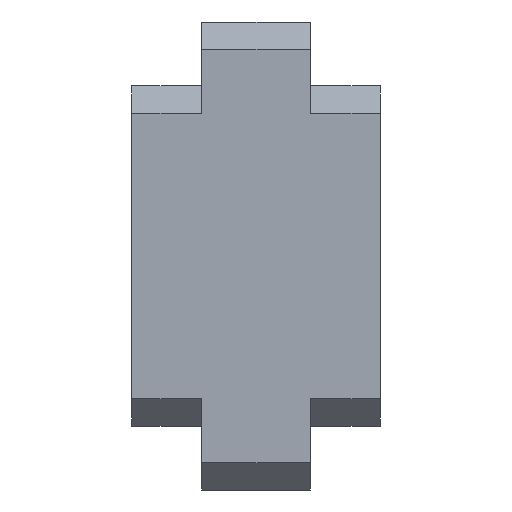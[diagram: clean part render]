
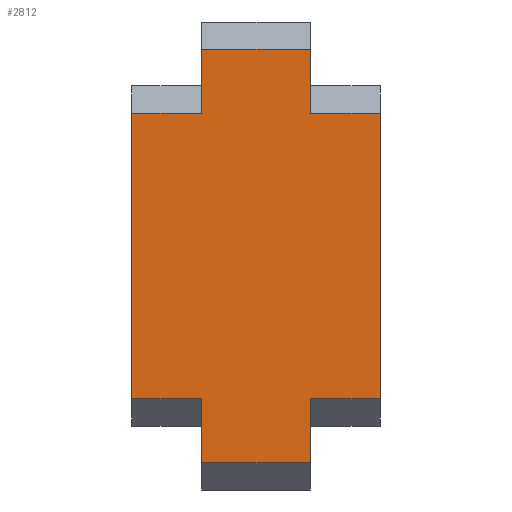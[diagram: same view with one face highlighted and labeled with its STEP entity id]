
A CAD part, left-side view. The second image highlights one B-rep face of the part: STEP entity #2812.
In plain terms, the highlighted planar face has unit normal (-1, 0, 0).
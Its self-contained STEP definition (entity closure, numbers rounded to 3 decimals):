
#7 = LINE ( 'NONE', #2789, #295 ) ;
#19 = VERTEX_POINT ( 'NONE', #947 ) ;
#91 = DIRECTION ( 'NONE',  ( 1., 0., 0. ) ) ;
#146 = VECTOR ( 'NONE', #2623, 1000. ) ;
#295 = VECTOR ( 'NONE', #1646, 1000. ) ;
#301 = EDGE_CURVE ( 'NONE', #2644, #3012, #7, .T. ) ;
#357 = EDGE_CURVE ( 'NONE', #2186, #1170, #490, .T. ) ;
#403 = ORIENTED_EDGE ( 'NONE', *, *, #2489, .T. ) ;
#436 = VECTOR ( 'NONE', #492, 1000. ) ;
#456 = CARTESIAN_POINT ( 'NONE',  ( -31.7, 1., 3.125 ) ) ;
#476 = LINE ( 'NONE', #456, #436 ) ;
#487 = DIRECTION ( 'NONE',  ( 0., -1., 0. ) ) ;
#490 = LINE ( 'NONE', #2310, #1900 ) ;
#492 = DIRECTION ( 'NONE',  ( 0., 0., -1. ) ) ;
#502 = EDGE_CURVE ( 'NONE', #1137, #2415, #476, .T. ) ;
#511 = DIRECTION ( 'NONE',  ( 0., 0., -1. ) ) ;
#548 = DIRECTION ( 'NONE',  ( 0., 0., 1. ) ) ;
#553 = VERTEX_POINT ( 'NONE', #1183 ) ;
#570 = VERTEX_POINT ( 'NONE', #2758 ) ;
#617 = EDGE_CURVE ( 'NONE', #2709, #2907, #795, .T. ) ;
#618 = CARTESIAN_POINT ( 'NONE',  ( -31.7, -1., 2.625 ) ) ;
#782 = DIRECTION ( 'NONE',  ( 0., 1., 0. ) ) ;
#795 = LINE ( 'NONE', #2606, #2629 ) ;
#813 = CARTESIAN_POINT ( 'NONE',  ( -31.7, 2.286, -2.625 ) ) ;
#827 = ORIENTED_EDGE ( 'NONE', *, *, #301, .F. ) ;
#854 = ORIENTED_EDGE ( 'NONE', *, *, #2073, .T. ) ;
#928 = DIRECTION ( 'NONE',  ( 0., -1., 0. ) ) ;
#947 = CARTESIAN_POINT ( 'NONE',  ( -31.7, 1., -2.625 ) ) ;
#996 = LINE ( 'NONE', #1284, #1925 ) ;
#1050 = ORIENTED_EDGE ( 'NONE', *, *, #2775, .T. ) ;
#1080 = CARTESIAN_POINT ( 'NONE',  ( -31.7, 2.286, -2.625 ) ) ;
#1097 = EDGE_CURVE ( 'NONE', #2907, #1488, #1905, .T. ) ;
#1137 = VERTEX_POINT ( 'NONE', #1495 ) ;
#1145 = VECTOR ( 'NONE', #2750, 1000. ) ;
#1170 = VERTEX_POINT ( 'NONE', #2872 ) ;
#1172 = ORIENTED_EDGE ( 'NONE', *, *, #1468, .T. ) ;
#1179 = EDGE_CURVE ( 'NONE', #570, #2709, #2422, .T. ) ;
#1183 = CARTESIAN_POINT ( 'NONE',  ( -31.7, -1., -2.625 ) ) ;
#1284 = CARTESIAN_POINT ( 'NONE',  ( -31.7, 1., 3.8 ) ) ;
#1290 = ORIENTED_EDGE ( 'NONE', *, *, #357, .T. ) ;
#1303 = ORIENTED_EDGE ( 'NONE', *, *, #2246, .T. ) ;
#1343 = DIRECTION ( 'NONE',  ( 0., 0., 1. ) ) ;
#1347 = CARTESIAN_POINT ( 'NONE',  ( -31.7, 2.286, 2.625 ) ) ;
#1377 = ORIENTED_EDGE ( 'NONE', *, *, #2115, .T. ) ;
#1463 = CARTESIAN_POINT ( 'NONE',  ( -31.7, -1., 3.125 ) ) ;
#1467 = CARTESIAN_POINT ( 'NONE',  ( -31.7, -2.286, -3.125 ) ) ;
#1468 = EDGE_CURVE ( 'NONE', #2415, #3012, #1553, .T. ) ;
#1488 = VERTEX_POINT ( 'NONE', #2785 ) ;
#1495 = CARTESIAN_POINT ( 'NONE',  ( -31.7, 1., 3.8 ) ) ;
#1553 = LINE ( 'NONE', #2272, #1145 ) ;
#1586 = EDGE_LOOP ( 'NONE', ( #1303, #854, #1866, #2971, #2546, #1377, #2747, #1172, #827, #403, #1050, #1290 ) ) ;
#1646 = DIRECTION ( 'NONE',  ( 0., 0., 1. ) ) ;
#1660 = LINE ( 'NONE', #2324, #2603 ) ;
#1663 = CARTESIAN_POINT ( 'NONE',  ( -31.7, 1., 2.625 ) ) ;
#1671 = FACE_OUTER_BOUND ( 'NONE', #1586, .T. ) ;
#1683 = VECTOR ( 'NONE', #1343, 1000. ) ;
#1757 = CARTESIAN_POINT ( 'NONE',  ( -31.7, 1., -3.8 ) ) ;
#1832 = AXIS2_PLACEMENT_3D ( 'NONE', #2833, #91, #511 ) ;
#1866 = ORIENTED_EDGE ( 'NONE', *, *, #1179, .T. ) ;
#1899 = DIRECTION ( 'NONE',  ( 0., 0., -1. ) ) ;
#1900 = VECTOR ( 'NONE', #928, 1000. ) ;
#1905 = LINE ( 'NONE', #1463, #2182 ) ;
#1924 = LINE ( 'NONE', #813, #2357 ) ;
#1925 = VECTOR ( 'NONE', #782, 1000. ) ;
#1942 = CARTESIAN_POINT ( 'NONE',  ( -31.7, 1., -3.125 ) ) ;
#1965 = DIRECTION ( 'NONE',  ( 0., -1., 0. ) ) ;
#2023 = CARTESIAN_POINT ( 'NONE',  ( -31.7, -1., -3.125 ) ) ;
#2073 = EDGE_CURVE ( 'NONE', #553, #570, #1924, .T. ) ;
#2103 = CARTESIAN_POINT ( 'NONE',  ( -31.7, -2.286, 2.625 ) ) ;
#2115 = EDGE_CURVE ( 'NONE', #1488, #1137, #996, .T. ) ;
#2182 = VECTOR ( 'NONE', #548, 1000. ) ;
#2186 = VERTEX_POINT ( 'NONE', #1757 ) ;
#2246 = EDGE_CURVE ( 'NONE', #1170, #553, #2479, .T. ) ;
#2272 = CARTESIAN_POINT ( 'NONE',  ( -31.7, 2.286, 2.625 ) ) ;
#2310 = CARTESIAN_POINT ( 'NONE',  ( -31.7, -1., -3.8 ) ) ;
#2324 = CARTESIAN_POINT ( 'NONE',  ( -31.7, 2.286, -2.625 ) ) ;
#2357 = VECTOR ( 'NONE', #1965, 1000. ) ;
#2412 = PLANE ( 'NONE',  #1832 ) ;
#2415 = VERTEX_POINT ( 'NONE', #1663 ) ;
#2422 = LINE ( 'NONE', #1467, #146 ) ;
#2479 = LINE ( 'NONE', #2023, #1683 ) ;
#2489 = EDGE_CURVE ( 'NONE', #2644, #19, #1660, .T. ) ;
#2546 = ORIENTED_EDGE ( 'NONE', *, *, #1097, .T. ) ;
#2603 = VECTOR ( 'NONE', #487, 1000. ) ;
#2606 = CARTESIAN_POINT ( 'NONE',  ( -31.7, 2.286, 2.625 ) ) ;
#2623 = DIRECTION ( 'NONE',  ( 0., 0., 1. ) ) ;
#2629 = VECTOR ( 'NONE', #2634, 1000. ) ;
#2634 = DIRECTION ( 'NONE',  ( 0., 1., 0. ) ) ;
#2641 = LINE ( 'NONE', #1942, #2811 ) ;
#2644 = VERTEX_POINT ( 'NONE', #1080 ) ;
#2709 = VERTEX_POINT ( 'NONE', #2103 ) ;
#2747 = ORIENTED_EDGE ( 'NONE', *, *, #502, .T. ) ;
#2750 = DIRECTION ( 'NONE',  ( 0., 1., 0. ) ) ;
#2758 = CARTESIAN_POINT ( 'NONE',  ( -31.7, -2.286, -2.625 ) ) ;
#2775 = EDGE_CURVE ( 'NONE', #19, #2186, #2641, .T. ) ;
#2785 = CARTESIAN_POINT ( 'NONE',  ( -31.7, -1., 3.8 ) ) ;
#2789 = CARTESIAN_POINT ( 'NONE',  ( -31.7, 2.286, -3.125 ) ) ;
#2811 = VECTOR ( 'NONE', #1899, 1000. ) ;
#2812 = ADVANCED_FACE ( 'NONE', ( #1671 ), #2412, .F. ) ;
#2833 = CARTESIAN_POINT ( 'NONE',  ( -31.7, 2.286, -3.125 ) ) ;
#2872 = CARTESIAN_POINT ( 'NONE',  ( -31.7, -1., -3.8 ) ) ;
#2907 = VERTEX_POINT ( 'NONE', #618 ) ;
#2971 = ORIENTED_EDGE ( 'NONE', *, *, #617, .T. ) ;
#3012 = VERTEX_POINT ( 'NONE', #1347 ) ;
